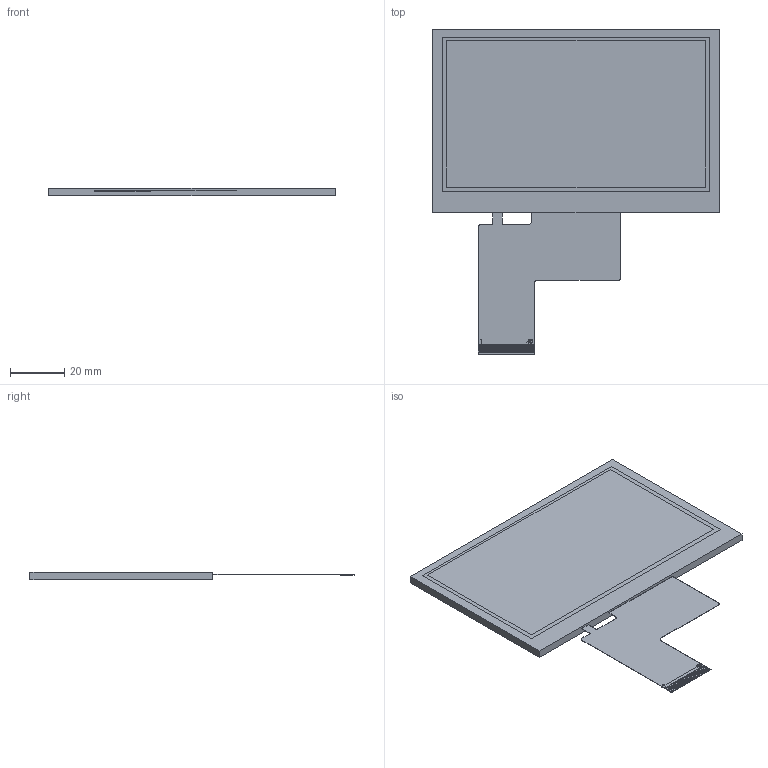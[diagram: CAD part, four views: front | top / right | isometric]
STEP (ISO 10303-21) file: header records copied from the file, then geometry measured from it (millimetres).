
FILE_DESCRIPTION (( 'STEP AP214' ), '1' );
FILE_NAME ('CFAF800480H0-043SN.STEP', '2023-01-31T18:07:11', ( '' ), ( '' ), 'SwSTEP 2.0', 'SolidWorks 2021', '' );
FILE_SCHEMA (( 'AUTOMOTIVE_DESIGN' ));
Length unit declared in the file: millimetre
Products named in the file (1): CFAF800480H0-043SN
Bounding box: 105.5 x 119.15 x 2.9 mm (x, y, z)
Volume: 20794.2 mm3; surface area: 18994.6 mm2
Topology: 3 solids, 3 shells, 225 faces, 644 edges, 432 vertices
Faces by surface type: plane 212, bspline 9, cylinder 4
Entity records: 10052 total; most frequent: CARTESIAN_POINT 2087, ORIENTED_EDGE 1288, DIRECTION 1068, EDGE_CURVE 644, VECTOR 618, LINE 618, VERTEX_POINT 432, EDGE_LOOP 232
